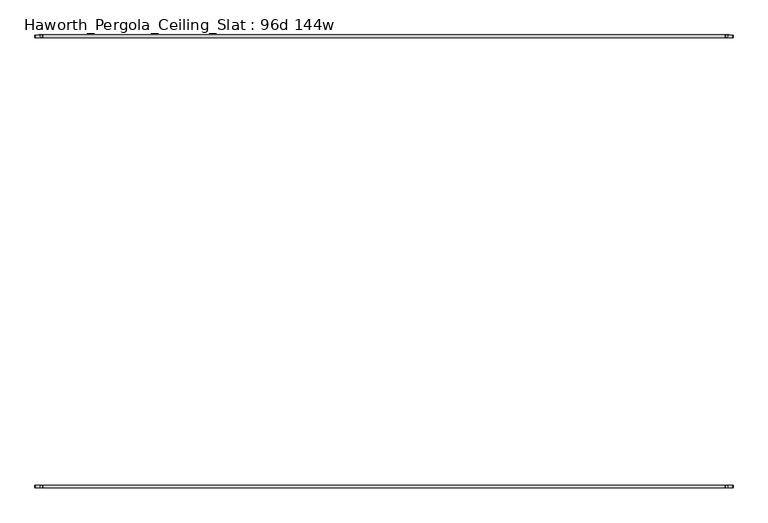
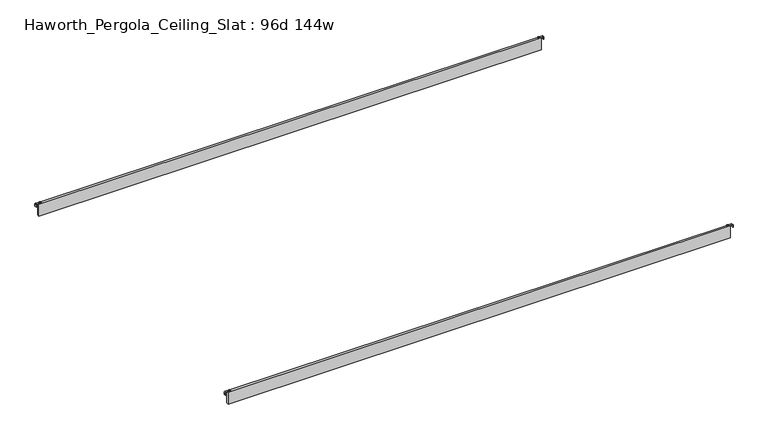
"""IFC4 building model written with IfcOpenShell, lengths in millimetres: furniture geometry, Haworth_Pergola_Ceiling_Slat : 96d 144w."""

from ifc_helpers import new_model, si_unit, point, frame, frame_2d, origin, place, context, project, spatial, polyline, circle_curve, trimmed, segment, composite_curve, outline, extrude, source, transform, mapped, element, save


def haworth_pergola_ceiling_slat_96d_144w_89231c02(model_context):
    return source(origin(), model_context, "Body", "SweptSolid", [
        extrude(outline(composite_curve([segment(trimmed(circle_curve(frame_2d((1853.2, -144.907)), 5.9838099), [point((1847.2161901, -144.907))], [point((1859.1838099, -144.907))], False, "CARTESIAN"), True, "CONTINUOUS"), segment(trimmed(circle_curve(frame_2d((1853.2, -144.907)), 5.9838099), [point((1859.1838099, -144.907))], [point((1847.2161901, -144.907))], False, "CARTESIAN"), True, "CONTINUOUS")], self_intersect=False)), frame((0.0, 0.0, 2440.9329992), z_axis=(0.0, 0.0, 1.0), x_axis=(1.0, 0.0, 0.0)), (0.0, 0.0, 1.0), 3.4400008),
        extrude(outline(composite_curve([segment(trimmed(circle_curve(frame_2d((-1777.0, -144.907)), 5.9838099), [point((-1771.0161901, -144.907))], [point((-1782.9838099, -144.907))], False, "CARTESIAN"), True, "CONTINUOUS"), segment(trimmed(circle_curve(frame_2d((-1777.0, -144.907)), 5.9838099), [point((-1782.9838099, -144.907))], [point((-1771.0161901, -144.907))], False, "CARTESIAN"), True, "CONTINUOUS")], self_intersect=False)), frame((0.0, 0.0, 2440.9329992), z_axis=(0.0, 0.0, 1.0), x_axis=(1.0, 0.0, 0.0)), (0.0, 0.0, 1.0), 3.4400008),
        extrude(outline(composite_curve([segment(polyline([(2419.2231711, 1887.36), (2437.2499992, 1887.36)]), True, "CONTINUOUS"), segment(trimmed(circle_curve(frame_2d((2437.2499992, 1883.677)), 3.683), [point((2437.2499992, 1887.36))], [point((2440.9329992, 1883.677))], False, "CARTESIAN"), True, "CONTINUOUS"), segment(polyline([(2440.9329992, 1883.677), (2440.9329992, 1846.7), (2438.2729997, 1846.7), (2438.2729997, 1883.6905568)]), True, "CONTINUOUS"), segment(trimmed(circle_curve(frame_2d((2437.2635571, 1883.6905568)), 1.0094425), [point((2438.2729997, 1883.6905568))], [point((2437.2635571, 1884.6999993))], True, "CARTESIAN"), True, "CONTINUOUS"), segment(polyline([(2437.2635571, 1884.6999993), (2419.2231711, 1884.6999993), (2419.2231711, 1887.36)]), True, "CONTINUOUS")], self_intersect=False)), frame((0.0, -151.4000003, 0.0), z_axis=(0.0, 1.0, 0.0), x_axis=(0.0, 0.0, 1.0)), (0.0, 0.0, 1.0), 13.0),
        extrude(outline(composite_curve([segment(polyline([(2419.2231711, -1811.16), (2419.2231711, -1808.4999993), (2437.2635571, -1808.4999993)]), True, "CONTINUOUS"), segment(trimmed(circle_curve(frame_2d((2437.2635571, -1807.4905568)), 1.0094425), [point((2437.2635571, -1808.4999993))], [point((2438.2729997, -1807.4905568))], True, "CARTESIAN"), True, "CONTINUOUS"), segment(polyline([(2438.2729997, -1807.4905568), (2438.2729997, -1770.5), (2440.9329992, -1770.5), (2440.9329992, -1807.477)]), True, "CONTINUOUS"), segment(trimmed(circle_curve(frame_2d((2437.2499992, -1807.477)), 3.683), [point((2440.9329992, -1807.477))], [point((2437.2499992, -1811.16))], False, "CARTESIAN"), True, "CONTINUOUS"), segment(polyline([(2437.2499992, -1811.16), (2419.2231711, -1811.16)]), True, "CONTINUOUS")], self_intersect=False)), frame((0.0, -151.4000003, 0.0), z_axis=(0.0, 1.0, 0.0), x_axis=(0.0, 0.0, 1.0)), (0.0, 0.0, 1.0), 13.0),
        extrude(outline(polyline([(-1790.7, -152.4), (-1790.7, -137.414), (1866.9, -137.414), (1866.9, -152.4), (-1790.7, -152.4)])), frame((0.0, 0.0, 2346.198), z_axis=(0.0, 0.0, 1.0), x_axis=(1.0, 0.0, 0.0)), (0.0, 0.0, 1.0), 92.202),
        extrude(outline(composite_curve([segment(trimmed(circle_curve(frame_2d((1853.2, -2532.507)), 5.9838099), [point((1847.2161901, -2532.507))], [point((1859.1838099, -2532.507))], False, "CARTESIAN"), True, "CONTINUOUS"), segment(trimmed(circle_curve(frame_2d((1853.2, -2532.507)), 5.9838099), [point((1859.1838099, -2532.507))], [point((1847.2161901, -2532.507))], False, "CARTESIAN"), True, "CONTINUOUS")], self_intersect=False)), frame((0.0, 0.0, 2440.9329992), z_axis=(0.0, 0.0, 1.0), x_axis=(1.0, 0.0, 0.0)), (0.0, 0.0, 1.0), 3.4400008),
        extrude(outline(composite_curve([segment(trimmed(circle_curve(frame_2d((-1777.0, -2532.507)), 5.9838099), [point((-1771.0161901, -2532.507))], [point((-1782.9838099, -2532.507))], False, "CARTESIAN"), True, "CONTINUOUS"), segment(trimmed(circle_curve(frame_2d((-1777.0, -2532.507)), 5.9838099), [point((-1782.9838099, -2532.507))], [point((-1771.0161901, -2532.507))], False, "CARTESIAN"), True, "CONTINUOUS")], self_intersect=False)), frame((0.0, 0.0, 2440.9329992), z_axis=(0.0, 0.0, 1.0), x_axis=(1.0, 0.0, 0.0)), (0.0, 0.0, 1.0), 3.4400008),
        extrude(outline(composite_curve([segment(polyline([(2419.2231711, 1887.36), (2437.2499992, 1887.36)]), True, "CONTINUOUS"), segment(trimmed(circle_curve(frame_2d((2437.2499992, 1883.677)), 3.683), [point((2437.2499992, 1887.36))], [point((2440.9329992, 1883.677))], False, "CARTESIAN"), True, "CONTINUOUS"), segment(polyline([(2440.9329992, 1883.677), (2440.9329992, 1846.7), (2438.2729997, 1846.7), (2438.2729997, 1883.6905568)]), True, "CONTINUOUS"), segment(trimmed(circle_curve(frame_2d((2437.2635571, 1883.6905568)), 1.0094425), [point((2438.2729997, 1883.6905568))], [point((2437.2635571, 1884.6999993))], True, "CARTESIAN"), True, "CONTINUOUS"), segment(polyline([(2437.2635571, 1884.6999993), (2419.2231711, 1884.6999993), (2419.2231711, 1887.36)]), True, "CONTINUOUS")], self_intersect=False)), frame((0.0, -2539.0000003, 0.0), z_axis=(0.0, 1.0, 0.0), x_axis=(0.0, 0.0, 1.0)), (0.0, 0.0, 1.0), 13.0),
        extrude(outline(composite_curve([segment(polyline([(2419.2231711, -1811.16), (2419.2231711, -1808.4999993), (2437.2635571, -1808.4999993)]), True, "CONTINUOUS"), segment(trimmed(circle_curve(frame_2d((2437.2635571, -1807.4905568)), 1.0094425), [point((2437.2635571, -1808.4999993))], [point((2438.2729997, -1807.4905568))], True, "CARTESIAN"), True, "CONTINUOUS"), segment(polyline([(2438.2729997, -1807.4905568), (2438.2729997, -1770.5), (2440.9329992, -1770.5), (2440.9329992, -1807.477)]), True, "CONTINUOUS"), segment(trimmed(circle_curve(frame_2d((2437.2499992, -1807.477)), 3.683), [point((2440.9329992, -1807.477))], [point((2437.2499992, -1811.16))], False, "CARTESIAN"), True, "CONTINUOUS"), segment(polyline([(2437.2499992, -1811.16), (2419.2231711, -1811.16)]), True, "CONTINUOUS")], self_intersect=False)), frame((0.0, -2539.0000003, 0.0), z_axis=(0.0, 1.0, 0.0), x_axis=(0.0, 0.0, 1.0)), (0.0, 0.0, 1.0), 13.0),
        extrude(outline(polyline([(-1790.7, -2540.0), (-1790.7, -2525.014), (1866.9, -2525.014), (1866.9, -2540.0), (-1790.7, -2540.0)])), frame((0.0, 0.0, 2346.198), z_axis=(0.0, 0.0, 1.0), x_axis=(1.0, 0.0, 0.0)), (0.0, 0.0, 1.0), 92.202),
    ])


if __name__ == "__main__":
    model = new_model("IFC4")
    model_context = context("Model", 3, world=origin())
    ifc_project = project(units=[si_unit("LENGTHUNIT", "METRE", prefix="MILLI")], contexts=[model_context])
    site = spatial("IfcSite", under=ifc_project)
    building = spatial("IfcBuilding", under=site)
    placement = place(None, origin())
    haworth_pergola_ceiling_slat_96d_144w_shape = haworth_pergola_ceiling_slat_96d_144w_89231c02(model_context)
    element("IfcFurniture", 1, ObjectType="Haworth_Pergola_Ceiling_Slat : 96d 144w", at=placement, inside=building, context=model_context, shape_type="MappedRepresentation", body=[
        mapped(haworth_pergola_ceiling_slat_96d_144w_shape, transform((0.0, 0.0, 0.0), x_axis=(1.0, 0.0, 0.0), y_axis=(0.0, 1.0, 0.0), z_axis=(0.0, 0.0, 1.0))),
    ])
    save(model, "model.ifc")
